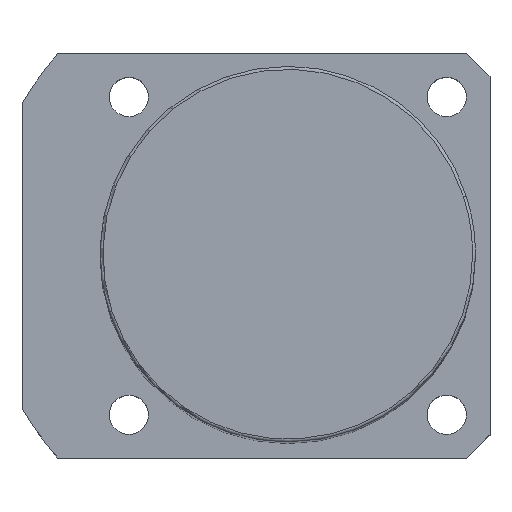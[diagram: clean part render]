
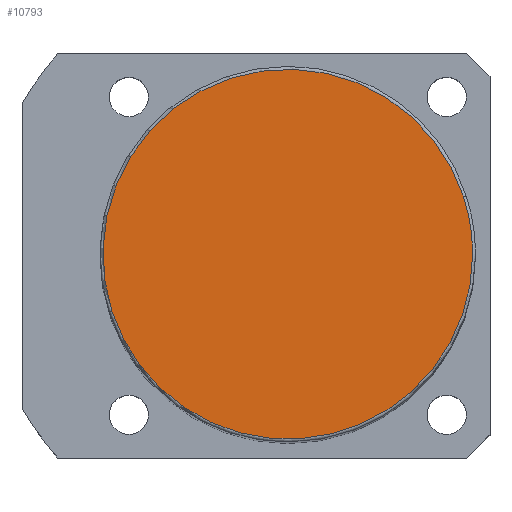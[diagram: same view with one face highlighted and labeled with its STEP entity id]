
A CAD part, top view. The second image highlights one B-rep face of the part: STEP entity #10793.
In plain terms, the highlighted planar face has unit normal (0, 0, 1).
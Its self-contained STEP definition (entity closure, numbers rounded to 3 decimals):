
#10726=CARTESIAN_POINT('',(30.434,9.889,181.0));
#10727=VERTEX_POINT('',#10726);
#10745=CARTESIAN_POINT('',(-30.434,-9.889,181.0));
#10746=VERTEX_POINT('',#10745);
#10754=CARTESIAN_POINT('',(0.0,0.0,181.0));
#10755=DIRECTION('',(0.0,0.0,1.0));
#10756=DIRECTION('',(1.0,0.0,0.0));
#10757=AXIS2_PLACEMENT_3D('',#10754,#10755,#10756);
#10758=CIRCLE('',#10757,32.0);
#10759=EDGE_CURVE('no 4935',#10727,#10746,#10758,.T.);
#10769=CARTESIAN_POINT('',(32.0,0.0,181.0));
#10770=VERTEX_POINT('',#10769);
#10771=CARTESIAN_POINT('',(0.0,0.0,181.0));
#10772=DIRECTION('',(0.0,0.0,1.0));
#10773=DIRECTION('',(1.0,0.0,0.0));
#10774=AXIS2_PLACEMENT_3D('',#10771,#10772,#10773);
#10775=CIRCLE('',#10774,32.0);
#10776=EDGE_CURVE('no 4944',#10770,#10727,#10775,.T.);
#10777=ORIENTED_EDGE('',*,*,#10776,.T.);
#10778=ORIENTED_EDGE('',*,*,#10759,.T.);
#10779=CARTESIAN_POINT('',(0.0,0.0,181.0));
#10780=DIRECTION('',(0.0,0.0,1.0));
#10781=DIRECTION('',(1.0,0.0,0.0));
#10782=AXIS2_PLACEMENT_3D('',#10779,#10780,#10781);
#10783=CIRCLE('',#10782,32.0);
#10784=EDGE_CURVE('no 4950',#10746,#10770,#10783,.T.);
#10785=ORIENTED_EDGE('',*,*,#10784,.T.);
#10786=EDGE_LOOP('',(#10777,#10778,#10785));
#10787=FACE_OUTER_BOUND('',#10786,.T.);
#10788=CARTESIAN_POINT('',(0.0,0.0,181.0));
#10789=DIRECTION('',(0.0,0.0,1.0));
#10790=DIRECTION('',(1.0,0.0,0.0));
#10791=AXIS2_PLACEMENT_3D('',#10788,#10789,#10790);
#10792=PLANE('',#10791);
#10793=ADVANCED_FACE('no 4937',(#10787),#10792,.T.);
